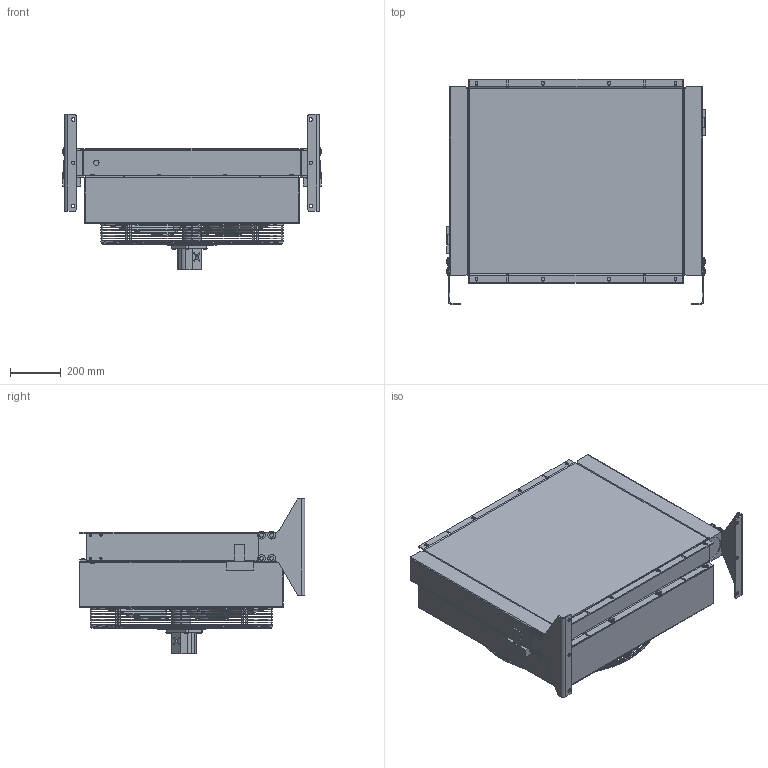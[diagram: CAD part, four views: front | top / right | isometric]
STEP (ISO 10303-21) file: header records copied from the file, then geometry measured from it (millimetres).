
FILE_DESCRIPTION( ( 'Unknown' ), '1' );
FILE_NAME( 'E:/du/atlas maschinen gmbh/out/131113_01/1964.032.x084.stp', 'Unknown', ( 'Matthias Rasche' ), ( 'AKG TTI' ), 'PSStep 14.0', 'Unknown', ' ' );
FILE_SCHEMA( ( 'AUTOMOTIVE_DESIGN { 1 0 10303 214 1 1 1 1 }' ) );
Length unit declared in the file: millimetre
Products named in the file (67): 10000047242_000; 10000047202_000-oa0; 10000019496_000-oa1; 10000019496_000-oa2; 10000047227_000; 10000007668_000-oa3; 10000004712_000-oa4; 10000004712_000-oa5; 10000017543_000-oa6; 10000017291_000-oa7; 10000000734_000; 10000000738_000; 10000047228_000; 10000047184_000; 10000000909_000; 10000047260_000; 10000000664_000; 10000000664_000-oa8; 10000000811_000; 10000000811_000-oa9; Assem1; 10000030904_000; 10000030904_000-oa10; 10000001346_000; 10000001107_000; 10000001357_000; 10000001275_000; 10000001226_000; 10000004815_000; 10000000620_000; 10000000620_000-oa11; 10000000620_000-oa12; 10000000620_000-oa13; 10000001112_000; 10000004706_000; 10000001299_000; 10000001235_000; 10000004659_000
Assembly tree (133 placements, depth 4):
  Assem1
    10000030904_000
    10000030904_000-oa10
    10000001346_000  x8
    10000001107_000  x8
    10000001357_000  x16
    10000001275_000  x12
    10000001226_000  x8
    10000004815_000
    10000004815_000
    10000004815_000
    10000004815_000
    10000004815_000
    10000004815_000
    10000004815_000
    10000004815_000
    10000004815_000
    10000004815_000
    10000004815_000
    10000004815_000
    10000004815_000
    10000004815_000
    10000004815_000
    10000004815_000
    10000004815_000
    10000004815_000
    10000004815_000
    10000004815_000
    10000004815_000
    10000004815_000
    10000004815_000
    10000004815_000
    10000004815_000
    10000004815_000
    10000004815_000
    10000004815_000
    10000004815_000
    10000004815_000
    10000000620_000
    10000000620_000-oa11
    10000000620_000-oa12
    10000000620_000-oa13
    10000001112_000  x4
    10000004706_000
    10000001299_000  x8
    10000001235_000  x4
    10000004659_000
    10000047260_000
      10000000664_000
      10000000664_000-oa8
      10000000811_000
      10000000811_000-oa9
      10000047242_000
        10000047202_000-oa0
        10000019496_000-oa1
        10000019496_000-oa2
      10000047227_000  x2
        10000007668_000-oa3
        10000004712_000-oa4
        10000004712_000-oa5
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Bounding box: 1017.8 x 884.5 x 609.11 mm (x, y, z)
Volume: 80945345.5 mm3; surface area: 6545322.1 mm2
Topology: 141 solids, 151 shells, 2080 faces, 5209 edges, 3422 vertices
Faces by surface type: plane 1011, cylinder 525, bspline 232, cone 188, torus 124
Full cylindrical faces by diameter (mm): 4.917 x8, 5 x8, 5.35 x4, 6 x5, 6.8 x12, 8 x36, 8.4 x24, 9 x4, 9.03 x36, 10 x20, 10.5 x12, 10.86 x8, 11.63 x12, 12 x1, 12.5 x30, 14 x8, 14.2 x2, 14.5 x4, 14.63 x12, 15 x1, 16 x8, 17 x1, 17.4 x1, 19 x2, 19.9 x2, 20 x1, 20.5 x2, 24 x16, 26 x2, 28 x4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
Entity records: 85780 total; most frequent: CARTESIAN_POINT 45612, ORIENTED_EDGE 6086, DIRECTION 4804, EDGE_CURVE 3043, VERTEX_POINT 2156, AXIS2_PLACEMENT_3D 1872, EDGE_LOOP 1819, FACE_OUTER_BOUND 1482
